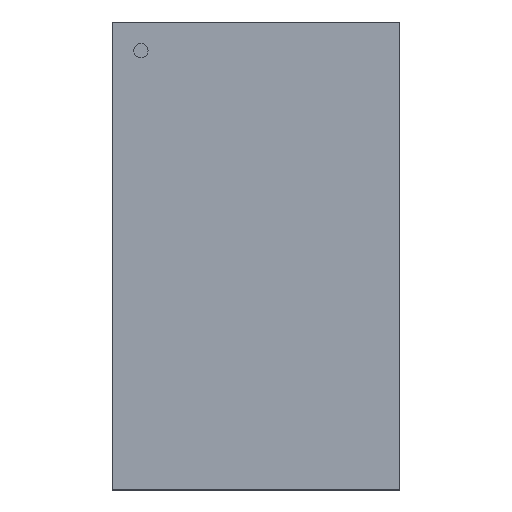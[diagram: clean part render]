
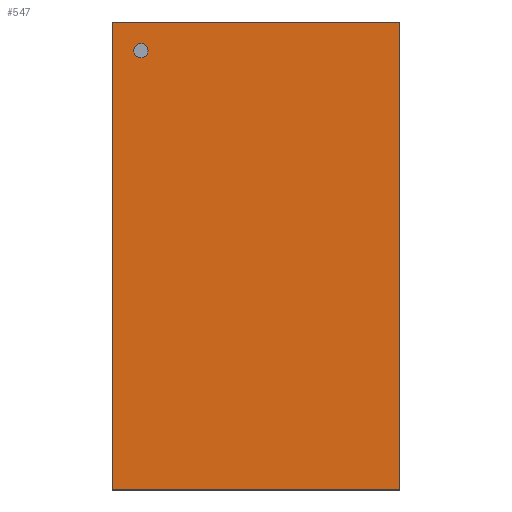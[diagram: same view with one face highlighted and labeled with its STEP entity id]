
A CAD part, top view. The second image highlights one B-rep face of the part: STEP entity #547.
In plain terms, the highlighted planar face has unit normal (0, 0, 1).
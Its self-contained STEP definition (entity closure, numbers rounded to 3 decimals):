
#323=CARTESIAN_POINT('',(0.406,-0.66,0.508));
#322=VERTEX_POINT('',#323);
#333=CARTESIAN_POINT('',(-0.406,-0.66,0.508));
#332=VERTEX_POINT('',#333);
#331=EDGE_CURVE('',#332,#322,#336,.T.);
#336=LINE('',#333,#338);
#338=VECTOR('',#339,0.813);
#339=DIRECTION('',(1.0,0.0,0.0));
#372=CARTESIAN_POINT('',(0.406,0.66,0.508));
#371=VERTEX_POINT('',#372);
#380=EDGE_CURVE('',#322,#371,#385,.T.);
#385=LINE('',#323,#387);
#387=VECTOR('',#388,1.321);
#388=DIRECTION('',(0.0,1.0,0.0));
#421=CARTESIAN_POINT('',(-0.406,0.66,0.508));
#420=VERTEX_POINT('',#421);
#429=EDGE_CURVE('',#371,#420,#434,.T.);
#434=LINE('',#372,#436);
#436=VECTOR('',#437,0.813);
#437=DIRECTION('',(-1.0,0.0,0.0));
#478=EDGE_CURVE('',#420,#332,#483,.T.);
#483=LINE('',#421,#485);
#485=VECTOR('',#486,1.321);
#486=DIRECTION('',(0.0,-1.0,0.0));
#547=ADVANCED_FACE('',(#553),#548,.T.);
#548=PLANE('',#549);
#549=AXIS2_PLACEMENT_3D('',#550,#551,#552);
#550=CARTESIAN_POINT('',(-0.406,-0.66,0.508));
#551=DIRECTION('',(0.0,0.0,1.0));
#552=DIRECTION('',(0.,1.,0.));
#553=FACE_OUTER_BOUND('',#554,.T.);
#554=EDGE_LOOP('',(#555,#565,#575,#585));
#555=ORIENTED_EDGE('',*,*,#331,.T.);
#565=ORIENTED_EDGE('',*,*,#380,.T.);
#575=ORIENTED_EDGE('',*,*,#429,.T.);
#585=ORIENTED_EDGE('',*,*,#478,.T.);
